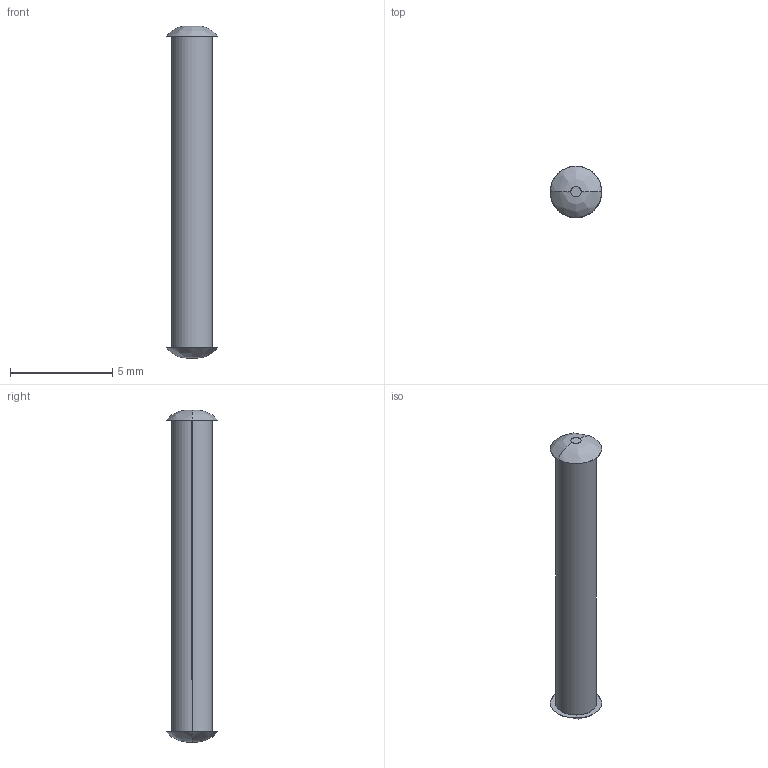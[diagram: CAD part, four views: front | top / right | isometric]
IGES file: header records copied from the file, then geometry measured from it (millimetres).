
Start section: SolidWorks IGES FILE using analytic representation for surfaces
Global section: file name: C:\Documents and Settings\lecoutey\Bureau\GO 17\17.100.00.IGS; native system: SolidWorks 2004 by SolidWorks Corporation; preprocessor: Version 5.3; author: lecoutey; date: 050329.093138; units: millimetre
Bounding box: 2.5 x 2.5 x 16.2 mm (x, y, z)
Surface area: 110.9 mm2 (no closed solid volume)
Topology: 0 solids, 0 shells, 10 faces, 184 edges, 184 vertices
Faces by surface type: bspline 8, revolution 2
